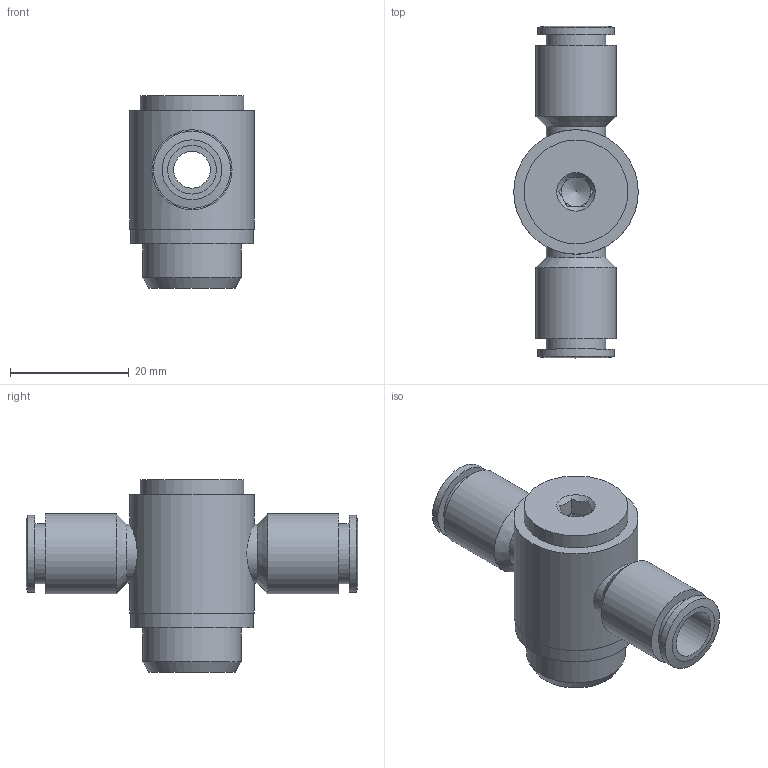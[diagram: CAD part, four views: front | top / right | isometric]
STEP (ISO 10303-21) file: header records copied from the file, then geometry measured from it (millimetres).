
FILE_DESCRIPTION((''),'2;1');
FILE_NAME('C:\Documents and Settings\rivolro1\Documenti\copia di Raccordi\PLASTICA\T16XXXX\T160838.stp','2007-10-31T15:06:47',('Rivolro1'),(''),'Autodesk Inventor 2008','Autodesk Inventor 2008','');
FILE_SCHEMA(('AUTOMOTIVE_DESIGN { 1 0 10303 214 1 1 1 1 }'));
Length unit declared in the file: millimetre
Products named in the file (1): T160838
Bounding box: 21 x 56 x 32.5 mm (x, y, z)
Volume: 11908.7 mm3; surface area: 5810.9 mm2
Topology: 1 solids, 1 shells, 48 faces, 101 edges, 65 vertices
Faces by surface type: plane 23, cylinder 12, bspline 8, cone 5
Full cylindrical faces by diameter (mm): 10 x2, 10.1 x2, 13 x2, 13.5 x2, 16.6 x1, 17.5 x1, 20.6 x1, 21 x1
Entity records: 1405 total; most frequent: CARTESIAN_POINT 467, DIRECTION 178, ORIENTED_EDGE 142, EDGE_LOOP 84, AXIS2_PLACEMENT_3D 80, EDGE_CURVE 71, VERTEX_POINT 59, FACE_OUTER_BOUND 48
